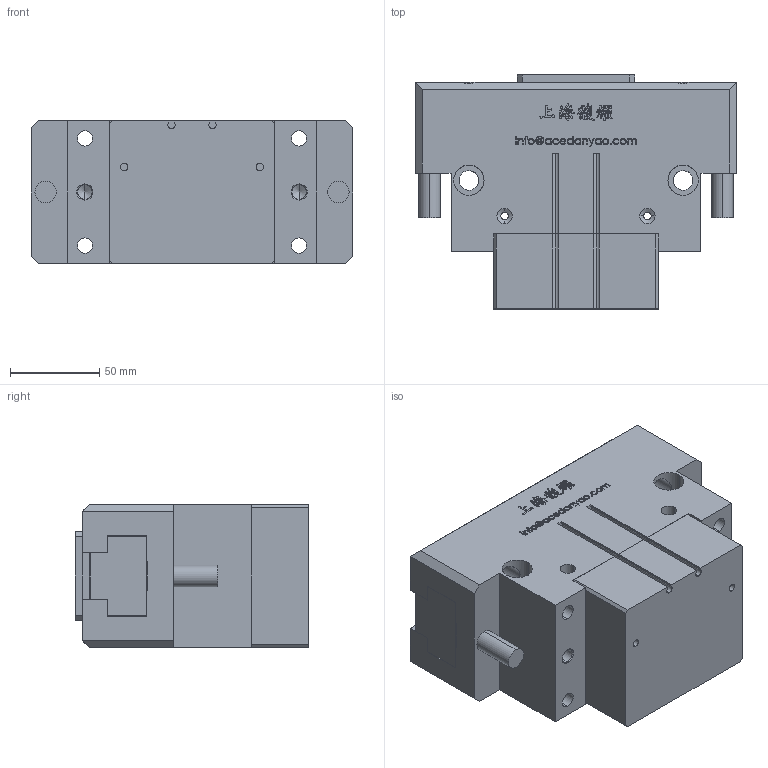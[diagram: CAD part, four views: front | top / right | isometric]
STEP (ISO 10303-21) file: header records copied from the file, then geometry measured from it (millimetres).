
FILE_DESCRIPTION (( 'STEP AP203' ), '1' );
FILE_NAME ('OPP2-180-C1-MC&MA-原始檔-組合-W106.04.19.STEP', '2017-04-19T05:07:38', ( 'DanyaoCAD' ), ( '' ), 'SwSTEP 2.0', 'SolidWorks 2016', '' );
FILE_SCHEMA (( 'CONFIG_CONTROL_DESIGN' ));
Length unit declared in the file: millimetre
Products named in the file (5): Corpo; Fondello; OPP2-180-C1-MC&MA-原始檔-組合-W106.04.19; Griffa; Coperchio
Assembly tree (5 placements, depth 2):
  OPP2-180-C1-MC&MA-原始檔-組合-W106.04.19
    Griffa  x2
    Coperchio
    Corpo
    Fondello
Bounding box: 180 x 131 x 80 mm (x, y, z)
Volume: 1332880.3 mm3; surface area: 188050.3 mm2
Topology: 5 solids, 5 shells, 1063 faces, 2958 edges, 1944 vertices
Faces by surface type: bspline 640, plane 271, cylinder 104, cone 48
Entity records: 50259 total; most frequent: CARTESIAN_POINT 27636, ORIENTED_EDGE 5704, EDGE_CURVE 2852, DIRECTION 2540, VERTEX_POINT 1890, VECTOR 1336, LINE 1336, B_SPLINE_CURVE_WITH_KNOTS 1304
